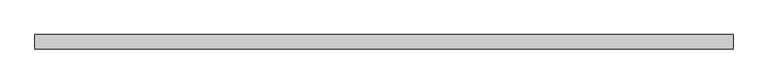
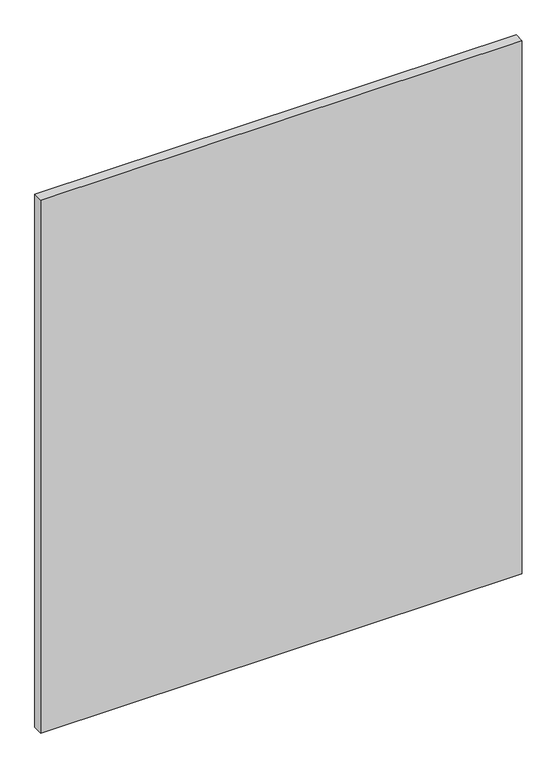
"""IFC4 building model written with IfcOpenShell, lengths in millimetres: plate geometry, Системная панель : С остеклением."""

from ifc_helpers import new_model, si_unit, origin, origin_with_axes, place, context, project, spatial, polyline, outline, extrude, source, transform, mapped, element, save


def plate_ec9fd1db(model_context):
    return source(origin(), model_context, "Body", "SweptSolid", [
        extrude(outline(polyline([(609.375, 24.5), (-609.375, 24.5), (-609.375, 49.5), (609.375, 49.5), (609.375, 24.5)])), origin_with_axes(), (0.0, 0.0, 1.0), 1425.0),
    ])


if __name__ == "__main__":
    model = new_model("IFC4")
    model_context = context("Model", 3, world=origin())
    ifc_project = project(units=[si_unit("LENGTHUNIT", "METRE", prefix="MILLI")], contexts=[model_context])
    site = spatial("IfcSite", under=ifc_project)
    building = spatial("IfcBuilding", under=site)
    placement = place(None, origin())
    plate_shape = plate_ec9fd1db(model_context)
    element("IfcPlate", 1, ObjectType="Системная панель : С остеклением", at=placement, inside=building, context=model_context, shape_type="MappedRepresentation", body=[
        mapped(plate_shape, transform((0.0, 0.0, 0.0), x_axis=(1.0, 0.0, 0.0), y_axis=(0.0, 1.0, 0.0), z_axis=(0.0, 0.0, 1.0))),
    ])
    save(model, "model.ifc")
